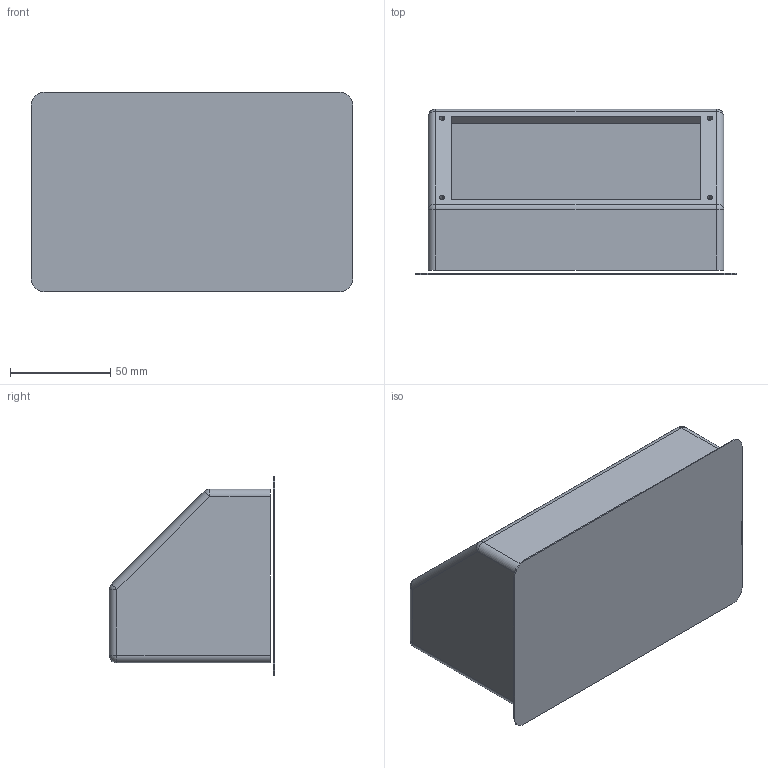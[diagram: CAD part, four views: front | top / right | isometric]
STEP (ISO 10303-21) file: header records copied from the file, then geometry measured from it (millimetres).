
FILE_DESCRIPTION (( 'STEP AP214' ), '1' );
FILE_NAME ('VikiEnclosurePlusBuildBase.STP', '2015-11-09T16:40:28', ( '' ), ( '' ), 'SwSTEP 2.0', 'SolidWorks 2014', '' );
FILE_SCHEMA (( 'AUTOMOTIVE_DESIGN' ));
Length unit declared in the file: inch
Products named in the file (1): VikiEnclosurePlusBuildBase
Bounding box: 160.02 x 82.41 x 99.29 mm (x, y, z)
Volume: 120674.2 mm3; surface area: 110742 mm2
Topology: 2 solids, 2 shells, 514 faces, 1570 edges, 1032 vertices
Faces by surface type: plane 432, cylinder 70, sphere 8, bspline 4
Entity records: 17861 total; most frequent: CARTESIAN_POINT 3301, ORIENTED_EDGE 3132, DIRECTION 2708, EDGE_CURVE 1566, VECTOR 1410, LINE 1410, VERTEX_POINT 1032, EDGE_LOOP 712
